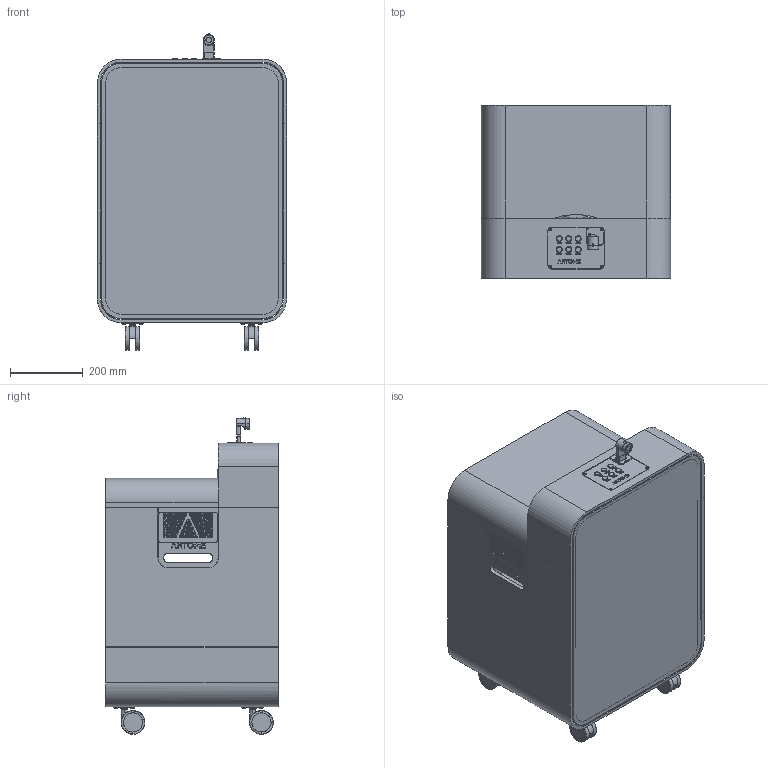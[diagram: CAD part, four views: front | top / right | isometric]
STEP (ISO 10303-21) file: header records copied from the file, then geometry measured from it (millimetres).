
FILE_DESCRIPTION(/* description */ (''),/* implementation_level */ '2;1');
FILE_NAME(/* name */ 'Artome_M10_3D',/* time_stamp */ '2021-03-23T15:42:30+02:00',/* author */ (''),/* organization */ (''),/* preprocessor_version */ 'ST-DEVELOPER v15',/* originating_system */ '',/* authorisation */ '');
FILE_SCHEMA (('AUTOMOTIVE_DESIGN'));
Products named in the file (1): Document
Bounding box: 520 x 475.33 x 869.75 mm (x, y, z)
Volume: 32375282.6 mm3; surface area: 5640503.5 mm2
Topology: 169 solids, 344 shells, 2964 faces, 7702 edges, 5260 vertices
Faces by surface type: bspline 1864, plane 1100
Entity records: 106572 total; most frequent: CARTESIAN_POINT 58480, ORIENTED_EDGE 14379, EDGE_CURVE 7649, VERTEX_POINT 5259, B_SPLINE_CURVE_WITH_KNOTS 3519, EDGE_LOOP 3454, ADVANCED_FACE 2964, FACE_OUTER_BOUND 2964
